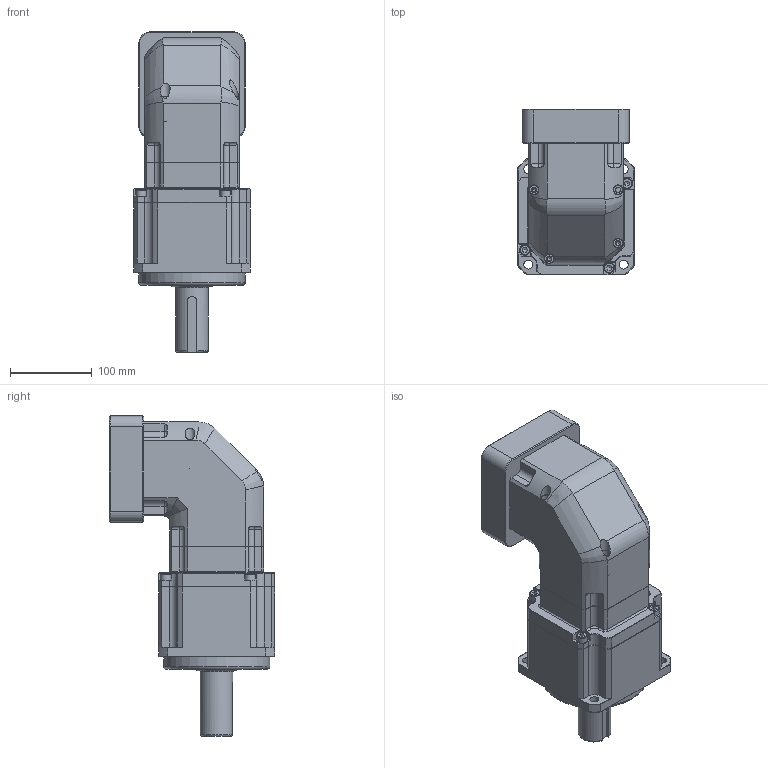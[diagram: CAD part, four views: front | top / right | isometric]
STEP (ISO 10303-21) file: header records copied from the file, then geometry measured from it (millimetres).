
FILE_DESCRIPTION((''),'2;1');
FILE_NAME('C:\Users\nagyu\Desktop\유성감속기-진행자료\도면\3D\2. 홈페이지용 3D 도면 (ipt)\외부도\SPL142\SPLH142D (2STAGE-KEY TYPE).stp','2012-07-23T11:28:09',('nagyu'),(''),'Autodesk Inventor 2012','Autodesk Inventor 2012','');
FILE_SCHEMA(('AUTOMOTIVE_DESIGN { 1 0 10303 214 1 1 1 1 }'));
Length unit declared in the file: millimetre
Products named in the file (2): SPLH142 2단.iam (대체 세부 수준1); SPLH142 2단_대체_1
Assembly tree (1 placements, depth 2):
  SPLH142 2단.iam (대체 세부 수준1)
    SPLH142 2단_대체_1
Bounding box: 142 x 202.3 x 391.8 mm (x, y, z)
Volume: 4573552.9 mm3; surface area: 372189 mm2
Topology: 8 solids, 9 shells, 549 faces, 1331 edges, 822 vertices
Faces by surface type: plane 243, cylinder 173, cone 101, torus 20, bspline 12
Full cylindrical faces by diameter (mm): 4.917 x4, 6.6 x8, 8 x4, 9 x4, 10.2 x1, 10.5 x4, 11 x8, 12 x1, 13 x4, 13.835 x1, 18 x1, 32 x1, 40 x1, 45 x1, 49.8 x1, 61.5 x1, 72 x1, 80 x1, 90 x2, 92 x1, 100 x3, 103 x1, 108 x1, 110 x1, 130 x2
Entity records: 16707 total; most frequent: CARTESIAN_POINT 4264, DIRECTION 2530, ORIENTED_EDGE 2390, EDGE_CURVE 1195, AXIS2_PLACEMENT_3D 990, VERTEX_POINT 792, EDGE_LOOP 717, VECTOR 550
